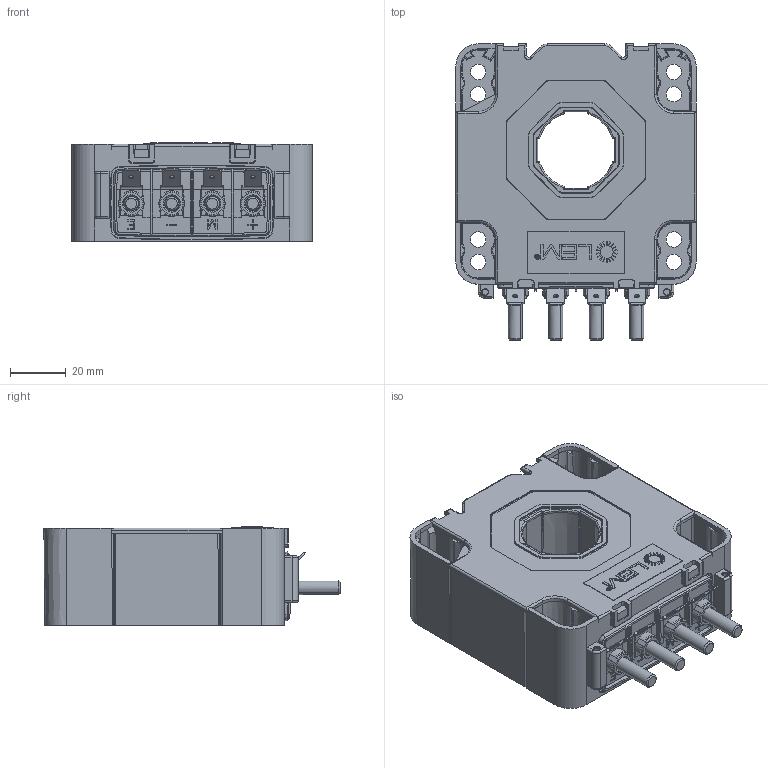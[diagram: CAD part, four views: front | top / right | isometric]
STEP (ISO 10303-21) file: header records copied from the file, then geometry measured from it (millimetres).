
FILE_DESCRIPTION(('Creo Elements/Direct Modeling STEP Export'),'2;1');
FILE_NAME('LTC 500-S blackbox.stp','2017-05-05T13:03:05',(''),(''),'PTC Creo Elements/Direct Modeling STEP processor for AP214 (Solid Model)','PTC Creo Elements/Direct Modeling 19.0B 21-Mar-2015 (C) Parametric Technology GmbH','');
FILE_SCHEMA(('AUTOMOTIVE_DESIGN { 1 0 10303 214 1 1 1 1 }'));
Products named in the file (2): LTC500-S_Blcackbox
Assembly tree (1 placements, depth 2):
  LTC500-S_Blcackbox
    LTC500-S_Blcackbox
Bounding box: 86.03 x 106.02 x 35.3 mm (x, y, z)
Volume: 202539 mm3; surface area: 42989.9 mm2
Topology: 1 solids, 1 shells, 1670 faces, 4464 edges, 2829 vertices
Faces by surface type: plane 871, cylinder 494, cone 125, torus 123, bspline 49, extrusion 8
Entity records: 67658 total; most frequent: CARTESIAN_POINT 24864, ORIENTED_EDGE 8912, DIRECTION 7662, EDGE_CURVE 4456, VERTEX_POINT 2829, AXIS2_PLACEMENT_3D 2555, VECTOR 2552, LINE 2544
